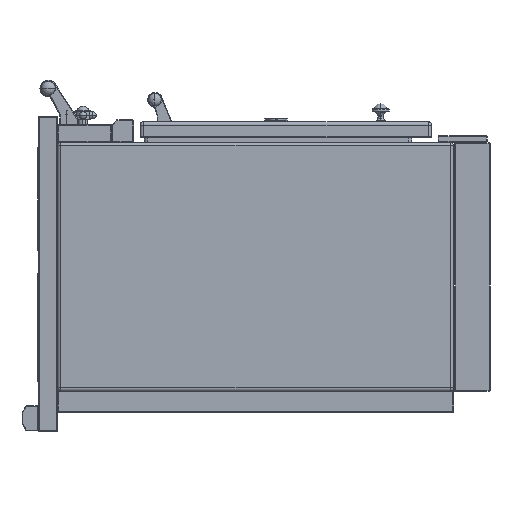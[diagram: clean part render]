
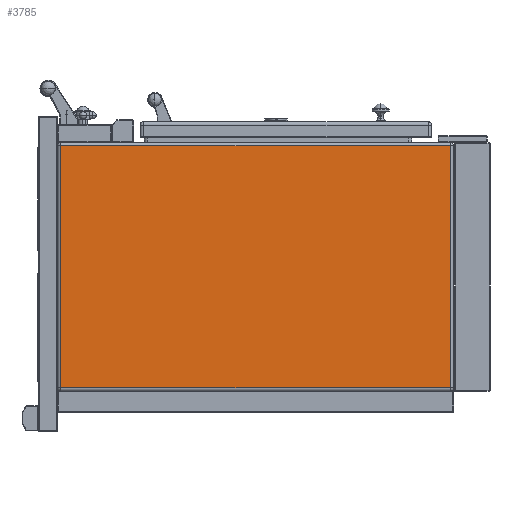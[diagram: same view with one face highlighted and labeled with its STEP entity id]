
A CAD part, left-side view. The second image highlights one B-rep face of the part: STEP entity #3785.
In plain terms, the highlighted planar face has unit normal (-1, 0, 0).
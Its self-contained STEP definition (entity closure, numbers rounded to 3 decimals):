
#343=DIRECTION('',(0.,1.,0.));
#344=VECTOR('',#343,801.);
#345=CARTESIAN_POINT('',(-750.,82.,249.));
#346=LINE('',#345,#344);
#347=DIRECTION('',(0.,0.,1.));
#348=VECTOR('',#347,498.);
#349=CARTESIAN_POINT('',(-750.,82.,-249.));
#350=LINE('',#349,#348);
#351=DIRECTION('',(0.,-1.,0.));
#352=VECTOR('',#351,801.);
#353=CARTESIAN_POINT('',(-750.,883.,-249.));
#354=LINE('',#353,#352);
#355=DIRECTION('',(0.,0.,-1.));
#356=VECTOR('',#355,498.);
#357=CARTESIAN_POINT('',(-750.,883.,249.));
#358=LINE('',#357,#356);
#2583=CARTESIAN_POINT('',(-750.,82.,249.));
#2584=CARTESIAN_POINT('',(-750.,883.,249.));
#2585=VERTEX_POINT('',#2583);
#2586=VERTEX_POINT('',#2584);
#2587=CARTESIAN_POINT('',(-750.,82.,-249.));
#2588=VERTEX_POINT('',#2587);
#2605=CARTESIAN_POINT('',(-750.,883.,-249.));
#2606=VERTEX_POINT('',#2605);
#3773=CARTESIAN_POINT('',(-750.,0.,0.));
#3774=DIRECTION('',(1.,0.,0.));
#3775=DIRECTION('',(0.,0.,-1.));
#3776=AXIS2_PLACEMENT_3D('',#3773,#3774,#3775);
#3777=PLANE('',#3776);
#3778=ORIENTED_EDGE('',*,*,#3718,.F.);
#3779=ORIENTED_EDGE('',*,*,#3756,.F.);
#3781=ORIENTED_EDGE('',*,*,#3780,.F.);
#3782=ORIENTED_EDGE('',*,*,#3664,.F.);
#3783=EDGE_LOOP('',(#3778,#3779,#3781,#3782));
#3784=FACE_OUTER_BOUND('',#3783,.F.);
#3664=EDGE_CURVE('',#2586,#2606,#358,.T.);
#3718=EDGE_CURVE('',#2585,#2586,#346,.T.);
#3756=EDGE_CURVE('',#2588,#2585,#350,.T.);
#3780=EDGE_CURVE('',#2606,#2588,#354,.T.);
#3785=ADVANCED_FACE('',(#3784),#3777,.F.);
